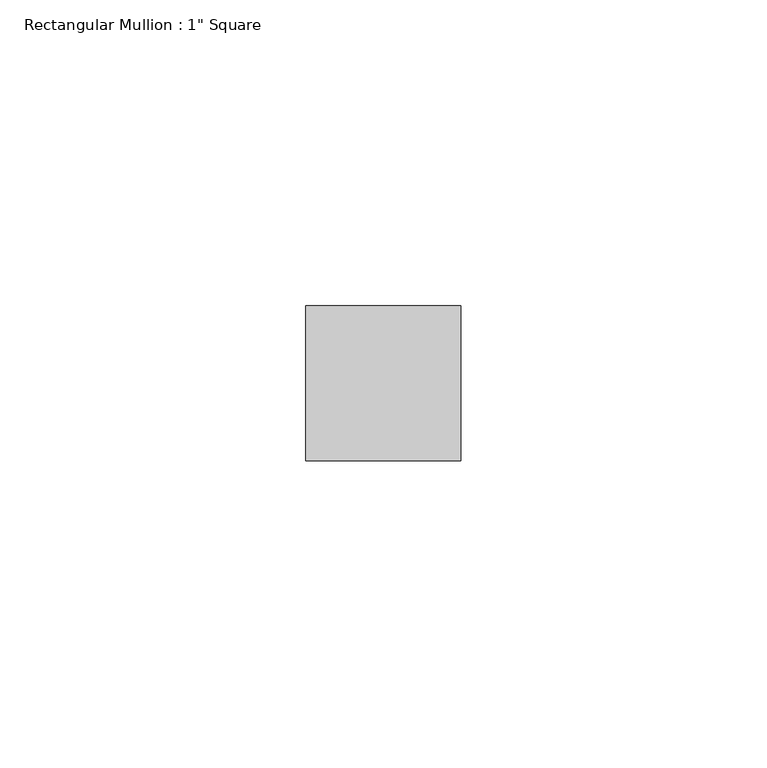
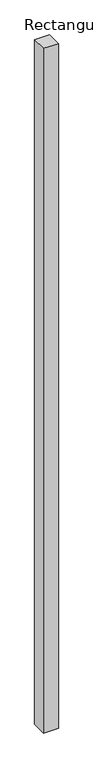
"""IFC4 building model written with IfcOpenShell, lengths in millimetres: member geometry."""

from ifc_helpers import new_model, si_unit, frame, origin, place, context, project, spatial, polyline, outline, extrude, source, transform, mapped, element, save


def member_0c6c8d0c(model_context):
    return source(origin(), model_context, "Body", "SweptSolid", [
        extrude(outline(polyline([(0.0, 12.7), (0.0, -12.7), (-25.4, -12.7), (-25.4, 12.7), (0.0, 12.7)])), frame((0.0, 0.0, -1226.0426401), z_axis=(0.0, 0.0, 1.0), x_axis=(1.0, 0.0, 0.0)), (0.0, 0.0, 1.0), 1226.0426401),
    ])


if __name__ == "__main__":
    model = new_model("IFC4")
    model_context = context("Model", 3, world=origin())
    ifc_project = project(units=[si_unit("LENGTHUNIT", "METRE", prefix="MILLI")], contexts=[model_context])
    site = spatial("IfcSite", under=ifc_project)
    building = spatial("IfcBuilding", under=site)
    placement = place(None, origin())
    member_shape = member_0c6c8d0c(model_context)
    element("IfcMember", 1, ObjectType="Rectangular Mullion : 1\" Square", at=placement, inside=building, context=model_context, shape_type="MappedRepresentation", body=[
        mapped(member_shape, transform((0.0, 0.0, 0.0), x_axis=(1.0, 0.0, 0.0), y_axis=(0.0, 1.0, 0.0), z_axis=(0.0, 0.0, 1.0))),
    ])
    save(model, "model.ifc")
